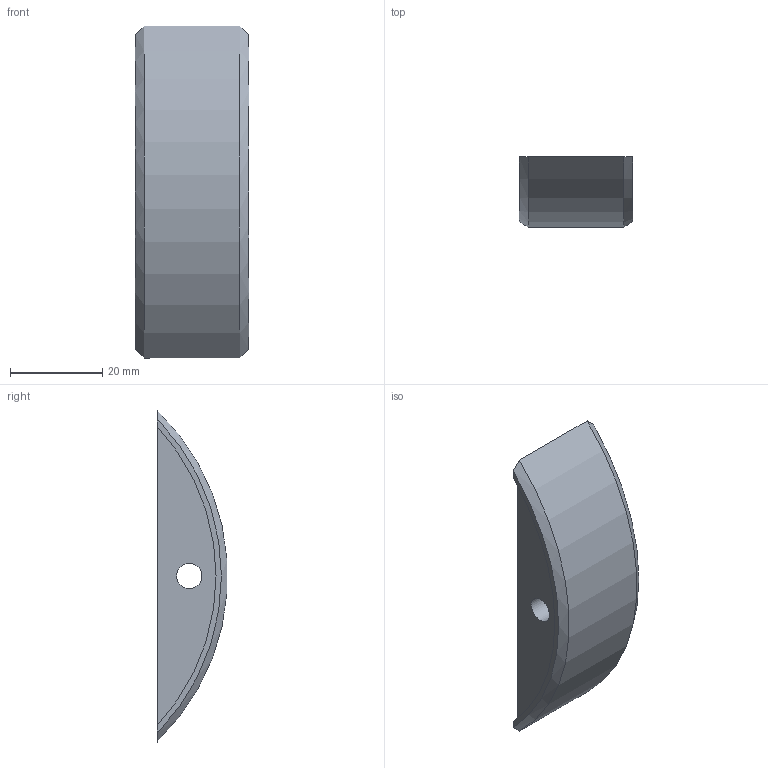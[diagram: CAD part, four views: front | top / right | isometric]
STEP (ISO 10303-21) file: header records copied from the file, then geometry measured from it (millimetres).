
FILE_DESCRIPTION(/* description */ (''),/* implementation_level */ '2;1');
FILE_NAME(/* name */ '335332v.stp',/* time_stamp */ '2024-08-23T09:51:13+02:00',/* author */ ('simond'),/* organization */ (''),/* preprocessor_version */ 'ST-DEVELOPER v19.2',/* originating_system */ 'Autodesk Inventor 2023',/* authorisation */ '');
FILE_SCHEMA (('AUTOMOTIVE_DESIGN { 1 0 10303 214 3 1 1 }'));
Length unit declared in the file: millimetre
Products named in the file (1): Tandem 38
Bounding box: 24.6 x 15.17 x 72 mm (x, y, z)
Volume: 11547.8 mm3; surface area: 6988 mm2
Topology: 1 solids, 1 shells, 19 faces, 48 edges, 32 vertices
Faces by surface type: plane 9, cylinder 8, cone 2
Full cylindrical faces by diameter (mm): 5.5 x2
Entity records: 638 total; most frequent: CARTESIAN_POINT 108, DIRECTION 102, ORIENTED_EDGE 96, EDGE_CURVE 48, AXIS2_PLACEMENT_3D 38, VERTEX_POINT 32, LINE 26, VECTOR 26
